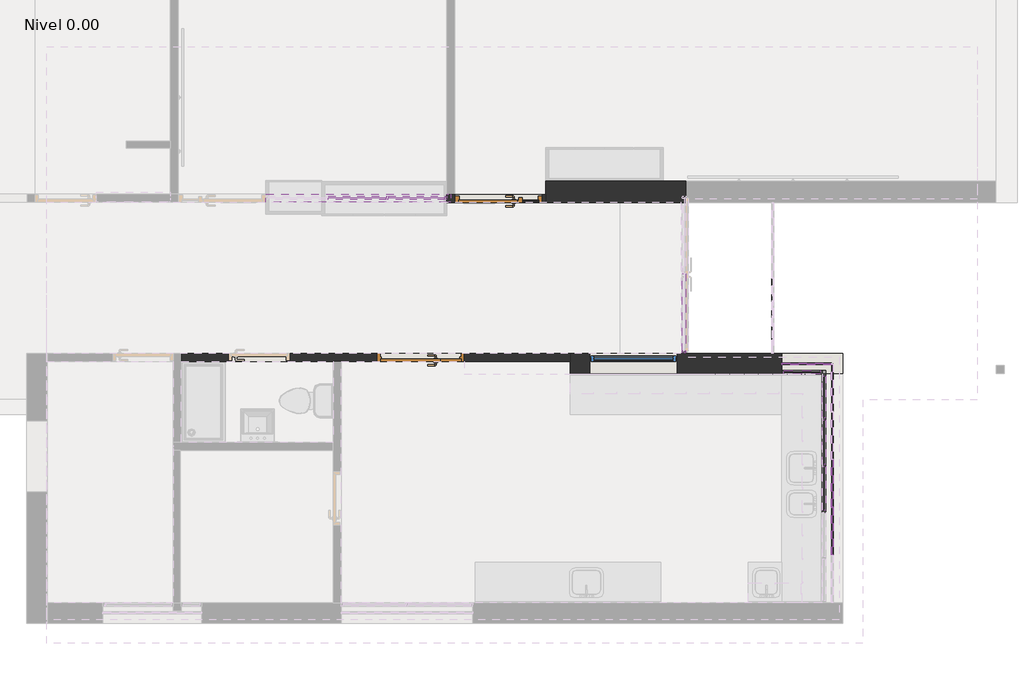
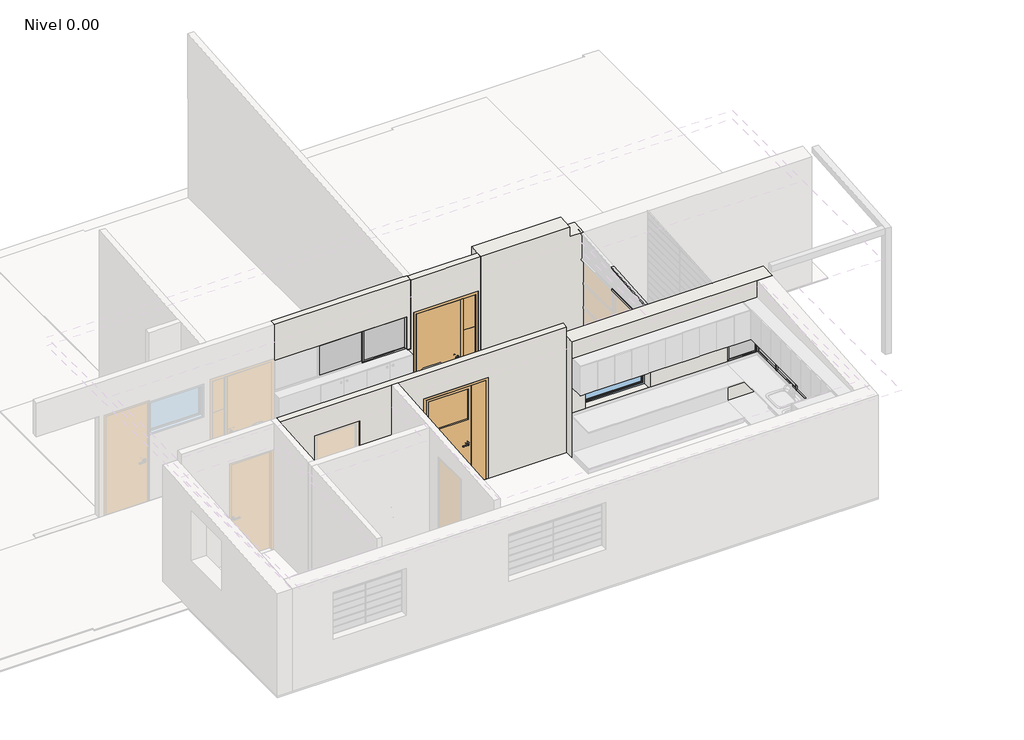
# One storey, part 10 of 27: 79 members, 25 plates, 5 walls, 2 doors, 1 window.
"""IFC4 building model written with IfcOpenShell, lengths in millimetres."""

from ifc_helpers import new_model, si_unit, origin, place, context, project, spatial, faceted_brep, transform, mapped, element, save
from components import puerta_c_03_c03_1300x2100mm_be522cc0, puerta_c_05_c05_1300x2100mm_d7b40a2c, circular_mullion_800c9cf9, circular_mullion_3029fd08, l_corner_mullion_53c66c15, l_corner_mullion_f6289c26, l_corner_mullion_42859779, rectangular_mullion_387845b0, rectangular_mullion_97640366, rectangular_mullion_f4aebcd0, rectangular_mullion_6dd91873, rectangular_mullion_583ac604, rectangular_mullion_a87e72df, rectangular_mullion_5c6d569c, rectangular_mullion_8654e992, rectangular_mullion_e335d830, rectangular_mullion_8bfd3a9c, rectangular_mullion_0e712f1e, rectangular_mullion_3ce97fec, rectangular_mullion_a5abb8e0, rectangular_mullion_823d3a73, rectangular_mullion_2051d734, rectangular_mullion_68d75eab, rectangular_mullion_9108b79a, rectangular_mullion_7a283d79, system_panel_92242c99, system_panel_e062d6e0, system_panel_dc262884, system_panel_3c67efe2, system_panel_glazed_4fc68407, system_panel_glazed_a2efd868, system_panel_glazed_c003b5f8, system_panel_glazed_9cce16fc, system_panel_glazed_a1e22965, vp_1300x600mm_0113bc5a

model = new_model("IFC4")

# Units and contexts
model_context = context("Model", 3, world=origin())
ifc_project = project(units=[si_unit("LENGTHUNIT", "METRE", prefix="MILLI")], contexts=[model_context])

# Site, building, storey
site = spatial("IfcSite", under=ifc_project)
building = spatial("IfcBuilding", under=site)
storey = spatial("IfcBuildingStorey", under=building, Name="Nivel 0.00", Elevation=0.0)

# Doors
placement = place(None, origin())
puerta_c_03_c03_1300x2100mm_shape = puerta_c_03_c03_1300x2100mm_be522cc0(model_context)
element("IfcDoor", 1, ObjectType="PUERTA_C-03 : C03_1300X2100mm", at=placement, inside=storey, context=model_context, shape_type="MappedRepresentation", body=[
    mapped(puerta_c_03_c03_1300x2100mm_shape, transform((10224.7617596, -784.2391831, 0.0), x_axis=(1.0, 0.0, 0.0), y_axis=(0.0, 1.0, 0.0), z_axis=(0.0, 0.0, 1.0))),
])
puerta_c_05_c05_1300x2100mm_shape = puerta_c_05_c05_1300x2100mm_d7b40a2c(model_context)
element("IfcDoor", 2, ObjectType="PUERTA_C-05 : C05_1300X2100mm", at=placement, inside=storey, context=model_context, shape_type="MappedRepresentation", body=[
    mapped(puerta_c_05_c05_1300x2100mm_shape, transform((9067.262327, -3144.2556693, 0.0), x_axis=(1.0, 0.0, 0.0), y_axis=(0.0, 1.0, 0.0), z_axis=(0.0, 0.0, 1.0))),
])

# Members
circular_mullion_shape = circular_mullion_800c9cf9(model_context)
element("IfcMember", 3, ObjectType="Circular Mullion : ARQ_HERR_16mm", at=placement, inside=storey, context=model_context, shape_type="MappedRepresentation", body=[
    mapped(circular_mullion_shape, transform((15175.5015264, -5372.9282707, 1087.5), x_axis=(0.0, 0.0, 1.0), y_axis=(1.0, 0.0, 0.0), z_axis=(0.0, 1.0, 0.0))),
])
element("IfcMember", 4, ObjectType="Circular Mullion : ARQ_HERR_16mm", at=placement, inside=storey, context=model_context, shape_type="MappedRepresentation", body=[
    mapped(circular_mullion_shape, transform((15175.5015264, -4664.1734336, 1087.5), x_axis=(0.0, 0.0, 1.0), y_axis=(1.0, 0.0, 0.0), z_axis=(0.0, 1.0, 0.0))),
])
element("IfcMember", 5, ObjectType="Circular Mullion : ARQ_HERR_16mm", at=placement, inside=storey, context=model_context, shape_type="MappedRepresentation", body=[
    mapped(circular_mullion_shape, transform((15175.5015264, -3955.4185966, 1087.5), x_axis=(0.0, 0.0, 1.0), y_axis=(1.0, 0.0, 0.0), z_axis=(0.0, 1.0, 0.0))),
])
element("IfcMember", 6, ObjectType="Circular Mullion : ARQ_HERR_16mm", at=placement, inside=storey, context=model_context, shape_type="MappedRepresentation", body=[
    mapped(circular_mullion_shape, transform((15175.5015264, -3246.6637592, 1087.5), x_axis=(0.0, 0.0, 1.0), y_axis=(1.0, 0.0, 0.0), z_axis=(0.0, 1.0, 0.0))),
])
element("IfcMember", 7, ObjectType="Circular Mullion : ARQ_HERR_16mm", at=placement, inside=storey, context=model_context, shape_type="MappedRepresentation", body=[
    mapped(circular_mullion_shape, transform((15175.5015264, -5372.9282707, 1225.0), x_axis=(0.0, 0.0, 1.0), y_axis=(1.0, 0.0, 0.0), z_axis=(0.0, 1.0, 0.0))),
])
element("IfcMember", 8, ObjectType="Circular Mullion : ARQ_HERR_16mm", at=placement, inside=storey, context=model_context, shape_type="MappedRepresentation", body=[
    mapped(circular_mullion_shape, transform((15175.5015264, -4664.1734336, 1225.0), x_axis=(0.0, 0.0, 1.0), y_axis=(1.0, 0.0, 0.0), z_axis=(0.0, 1.0, 0.0))),
])
element("IfcMember", 9, ObjectType="Circular Mullion : ARQ_HERR_16mm", at=placement, inside=storey, context=model_context, shape_type="MappedRepresentation", body=[
    mapped(circular_mullion_shape, transform((15175.5015264, -3955.4185966, 1225.0), x_axis=(0.0, 0.0, 1.0), y_axis=(1.0, 0.0, 0.0), z_axis=(0.0, 1.0, 0.0))),
])
element("IfcMember", 10, ObjectType="Circular Mullion : ARQ_HERR_16mm", at=placement, inside=storey, context=model_context, shape_type="MappedRepresentation", body=[
    mapped(circular_mullion_shape, transform((15175.5015264, -3246.6637592, 1225.0), x_axis=(0.0, 0.0, 1.0), y_axis=(1.0, 0.0, 0.0), z_axis=(0.0, 1.0, 0.0))),
])
element("IfcMember", 11, ObjectType="Circular Mullion : ARQ_HERR_16mm", at=placement, inside=storey, context=model_context, shape_type="MappedRepresentation", body=[
    mapped(circular_mullion_shape, transform((15175.5015264, -5372.9282707, 1362.5), x_axis=(0.0, 0.0, 1.0), y_axis=(1.0, 0.0, 0.0), z_axis=(0.0, 1.0, 0.0))),
])
element("IfcMember", 12, ObjectType="Circular Mullion : ARQ_HERR_16mm", at=placement, inside=storey, context=model_context, shape_type="MappedRepresentation", body=[
    mapped(circular_mullion_shape, transform((15175.5015264, -4664.1734336, 1362.5), x_axis=(0.0, 0.0, 1.0), y_axis=(1.0, 0.0, 0.0), z_axis=(0.0, 1.0, 0.0))),
])
circular_mullion_2_shape = circular_mullion_3029fd08(model_context)
element("IfcMember", 13, ObjectType="Circular Mullion : ARQ_HERR_16mm", at=placement, inside=storey, context=model_context, shape_type="MappedRepresentation", body=[
    mapped(circular_mullion_2_shape, transform((14430.4716835, -3239.1638203, 1087.5), x_axis=(0.0, 0.0, 1.0), y_axis=(0.0, 1.0, 0.0), z_axis=(-1.0, 0.0, 0.0))),
])
element("IfcMember", 14, ObjectType="Circular Mullion : ARQ_HERR_16mm", at=placement, inside=storey, context=model_context, shape_type="MappedRepresentation", body=[
    mapped(circular_mullion_2_shape, transform((14430.4716835, -3239.1638203, 1225.0), x_axis=(0.0, 0.0, 1.0), y_axis=(0.0, 1.0, 0.0), z_axis=(-1.0, 0.0, 0.0))),
])
element("IfcMember", 15, ObjectType="Circular Mullion : ARQ_HERR_16mm", at=placement, inside=storey, context=model_context, shape_type="MappedRepresentation", body=[
    mapped(circular_mullion_2_shape, transform((14430.4716835, -3239.1638203, 1362.5), x_axis=(0.0, 0.0, 1.0), y_axis=(0.0, 1.0, 0.0), z_axis=(-1.0, 0.0, 0.0))),
])
l_corner_mullion_shape = l_corner_mullion_53c66c15(model_context)
element("IfcMember", 16, ObjectType="L Corner Mullion : ARQ_HERR_15X6mm", at=placement, inside=storey, context=model_context, shape_type="MappedRepresentation", body=[
    mapped(l_corner_mullion_shape, transform((15175.5015264, -3246.6637592, 1500.0), x_axis=(0.0, 0.0, 1.0), y_axis=(1.0, 0.0, 0.0), z_axis=(0.0, 1.0, 0.0))),
])
element("IfcMember", 17, ObjectType="L Corner Mullion : ARQ_HERR_15X6mm", at=placement, inside=storey, context=model_context, shape_type="MappedRepresentation", body=[
    mapped(l_corner_mullion_shape, transform((15175.5015264, -5372.9282707, 1500.0), x_axis=(0.0, 0.0, 1.0), y_axis=(1.0, 0.0, 0.0), z_axis=(0.0, 1.0, 0.0))),
])
element("IfcMember", 18, ObjectType="L Corner Mullion : ARQ_HERR_15X6mm", at=placement, inside=storey, context=model_context, shape_type="MappedRepresentation", body=[
    mapped(l_corner_mullion_shape, transform((15175.5015264, -4664.1734336, 1500.0), x_axis=(0.0, 0.0, 1.0), y_axis=(1.0, 0.0, 0.0), z_axis=(0.0, 1.0, 0.0))),
])
element("IfcMember", 19, ObjectType="L Corner Mullion : ARQ_HERR_15X6mm", at=placement, inside=storey, context=model_context, shape_type="MappedRepresentation", body=[
    mapped(l_corner_mullion_shape, transform((15175.5015264, -3955.4185966, 1500.0), x_axis=(0.0, 0.0, 1.0), y_axis=(1.0, 0.0, 0.0), z_axis=(0.0, 1.0, 0.0))),
])
element("IfcMember", 20, ObjectType="L Corner Mullion : ARQ_HERR_15X6mm", at=placement, inside=storey, context=model_context, shape_type="MappedRepresentation", body=[
    mapped(l_corner_mullion_shape, transform((15175.5015264, -5366.9282707, 950.0), x_axis=(0.0, 0.0, -1.0), y_axis=(1.0, 0.0, 0.0), z_axis=(0.0, -1.0, 0.0))),
])
element("IfcMember", 21, ObjectType="L Corner Mullion : ARQ_HERR_15X6mm", at=placement, inside=storey, context=model_context, shape_type="MappedRepresentation", body=[
    mapped(l_corner_mullion_shape, transform((15175.5015264, -4658.1734336, 950.0), x_axis=(0.0, 0.0, -1.0), y_axis=(1.0, 0.0, 0.0), z_axis=(0.0, -1.0, 0.0))),
])
element("IfcMember", 22, ObjectType="L Corner Mullion : ARQ_HERR_15X6mm", at=placement, inside=storey, context=model_context, shape_type="MappedRepresentation", body=[
    mapped(l_corner_mullion_shape, transform((15175.5015264, -3949.4185966, 950.0), x_axis=(0.0, 0.0, -1.0), y_axis=(1.0, 0.0, 0.0), z_axis=(0.0, -1.0, 0.0))),
])
l_corner_mullion_2_shape = l_corner_mullion_f6289c26(model_context)
element("IfcMember", 23, ObjectType="L Corner Mullion : ARQ_HERR_15X6mm", at=placement, inside=storey, context=model_context, shape_type="MappedRepresentation", body=[
    mapped(l_corner_mullion_2_shape, transform((14430.4716835, -3239.1638203, 1500.0), x_axis=(0.0, 0.0, 1.0), y_axis=(0.0, 1.0, 0.0), z_axis=(-1.0, 0.0, 0.0))),
])
l_corner_mullion_3_shape = l_corner_mullion_42859779(model_context)
element("IfcMember", 24, ObjectType="L Corner Mullion : ARQ_HERR_15X6mm", at=placement, inside=storey, context=model_context, shape_type="MappedRepresentation", body=[
    mapped(l_corner_mullion_3_shape, transform((14293.3180123, -3084.6637592, 0.0), x_axis=(0.0, 0.0, -1.0), y_axis=(1.0, 0.0, 0.0), z_axis=(0.0, -1.0, 0.0))),
])
rectangular_mullion_shape = rectangular_mullion_387845b0(model_context)
element("IfcMember", 25, ObjectType="Rectangular Mullion : ARQ_TV_MULL_50x30mm", at=placement, inside=storey, context=model_context, shape_type="MappedRepresentation", body=[
    mapped(rectangular_mullion_shape, transform((14995.5015264, -3365.6637592, 1500.0), x_axis=(0.0, 0.0, 1.0), y_axis=(0.0, -1.0, 0.0), z_axis=(1.0, 0.0, 0.0))),
])
element("IfcMember", 26, ObjectType="Rectangular Mullion : ARQ_TV_MULL_50x30mm", at=placement, inside=storey, context=model_context, shape_type="MappedRepresentation", body=[
    mapped(rectangular_mullion_shape, transform((14454.4716835, -3365.6637592, 950.0), x_axis=(0.0, 0.0, -1.0), y_axis=(0.0, -1.0, 0.0), z_axis=(-1.0, 0.0, 0.0))),
])
rectangular_mullion_2_shape = rectangular_mullion_97640366(model_context)
element("IfcMember", 27, ObjectType="Rectangular Mullion : ARQ_TV_MULL_50x30mm", at=placement, inside=storey, context=model_context, shape_type="MappedRepresentation", body=[
    mapped(rectangular_mullion_2_shape, transform((15050.5015264, -3420.6637592, 1500.0), x_axis=(0.0, 0.0, 1.0), y_axis=(1.0, 0.0, 0.0), z_axis=(0.0, 1.0, 0.0))),
])
rectangular_mullion_3_shape = rectangular_mullion_f4aebcd0(model_context)
element("IfcMember", 28, ObjectType="Rectangular Mullion : ARQ_TV_MULL_50x30mm", at=placement, inside=storey, context=model_context, shape_type="MappedRepresentation", body=[
    mapped(rectangular_mullion_3_shape, transform((15050.5015264, -4762.6404848, 1500.0), x_axis=(0.0, 0.0, 1.0), y_axis=(1.0, 0.0, 0.0), z_axis=(0.0, 1.0, 0.0))),
])
element("IfcMember", 29, ObjectType="Rectangular Mullion : ARQ_TV_MULL_50x30mm", at=placement, inside=storey, context=model_context, shape_type="MappedRepresentation", body=[
    mapped(rectangular_mullion_3_shape, transform((15050.5015264, -4076.6521221, 1500.0), x_axis=(0.0, 0.0, 1.0), y_axis=(1.0, 0.0, 0.0), z_axis=(0.0, 1.0, 0.0))),
])
element("IfcMember", 30, ObjectType="Rectangular Mullion : ARQ_TV_MULL_50x30mm", at=placement, inside=storey, context=model_context, shape_type="MappedRepresentation", body=[
    mapped(rectangular_mullion_2_shape, transform((15050.5015264, -4046.6521221, 950.0), x_axis=(0.0, 0.0, -1.0), y_axis=(1.0, 0.0, 0.0), z_axis=(0.0, -1.0, 0.0))),
])
element("IfcMember", 31, ObjectType="Rectangular Mullion : ARQ_TV_MULL_50x30mm", at=placement, inside=storey, context=model_context, shape_type="MappedRepresentation", body=[
    mapped(rectangular_mullion_3_shape, transform((15050.5015264, -5418.6288474, 950.0), x_axis=(0.0, 0.0, -1.0), y_axis=(1.0, 0.0, 0.0), z_axis=(0.0, -1.0, 0.0))),
])
element("IfcMember", 32, ObjectType="Rectangular Mullion : ARQ_TV_MULL_50x30mm", at=placement, inside=storey, context=model_context, shape_type="MappedRepresentation", body=[
    mapped(rectangular_mullion_3_shape, transform((15050.5015264, -4732.6404848, 950.0), x_axis=(0.0, 0.0, -1.0), y_axis=(1.0, 0.0, 0.0), z_axis=(0.0, -1.0, 0.0))),
])
rectangular_mullion_4_shape = rectangular_mullion_6dd91873(model_context)
element("IfcMember", 33, ObjectType="Rectangular Mullion : ARQ_TV_MULL_50x30mm", at=placement, inside=storey, context=model_context, shape_type="MappedRepresentation", body=[
    mapped(rectangular_mullion_4_shape, transform((15050.5015264, -3390.6637592, 950.0), x_axis=(0.0, 1.0, 0.0), y_axis=(1.0, 0.0, 0.0), z_axis=(0.0, 0.0, -1.0))),
])
element("IfcMember", 34, ObjectType="Rectangular Mullion : ARQ_TV_MULL_50x30mm", at=placement, inside=storey, context=model_context, shape_type="MappedRepresentation", body=[
    mapped(rectangular_mullion_4_shape, transform((15025.5015264, -3365.6637592, 950.0), x_axis=(1.0, 0.0, 0.0), y_axis=(0.0, -1.0, 0.0), z_axis=(0.0, 0.0, -1.0))),
])
element("IfcMember", 35, ObjectType="Rectangular Mullion : ARQ_TV_MULL_50x30mm", at=placement, inside=storey, context=model_context, shape_type="MappedRepresentation", body=[
    mapped(rectangular_mullion_4_shape, transform((14424.4716835, -3365.6637592, 1500.0), x_axis=(-1.0, 0.0, 0.0), y_axis=(0.0, -1.0, 0.0), z_axis=(0.0, 0.0, 1.0))),
])
rectangular_mullion_5_shape = rectangular_mullion_583ac604(model_context)
element("IfcMember", 36, ObjectType="Rectangular Mullion : ARQ_TV_MULL_50x30mm", at=placement, inside=storey, context=model_context, shape_type="MappedRepresentation", body=[
    mapped(rectangular_mullion_5_shape, transform((15050.5015264, -5433.6288474, 950.0), x_axis=(0.0, 1.0, 0.0), y_axis=(1.0, 0.0, 0.0), z_axis=(0.0, 0.0, -1.0))),
])
element("IfcMember", 37, ObjectType="Rectangular Mullion : ARQ_TV_MULL_50x30mm", at=placement, inside=storey, context=model_context, shape_type="MappedRepresentation", body=[
    mapped(rectangular_mullion_5_shape, transform((15050.5015264, -4747.6404848, 950.0), x_axis=(0.0, 1.0, 0.0), y_axis=(1.0, 0.0, 0.0), z_axis=(0.0, 0.0, -1.0))),
])
element("IfcMember", 38, ObjectType="Rectangular Mullion : ARQ_TV_MULL_50x30mm", at=placement, inside=storey, context=model_context, shape_type="MappedRepresentation", body=[
    mapped(rectangular_mullion_5_shape, transform((15050.5015264, -4061.6521221, 950.0), x_axis=(0.0, 1.0, 0.0), y_axis=(1.0, 0.0, 0.0), z_axis=(0.0, 0.0, -1.0))),
])
rectangular_mullion_6_shape = rectangular_mullion_a87e72df(model_context)
element("IfcMember", 39, ObjectType="Rectangular Mullion : ARQ_TV_MULL_50x30mm", at=placement, inside=storey, context=model_context, shape_type="MappedRepresentation", body=[
    mapped(rectangular_mullion_6_shape, transform((8576.023445, -780.6047653, 1400.0), x_axis=(1.0, 0.0, 0.0), y_axis=(0.0, -1.0, 0.0), z_axis=(0.0, 0.0, -1.0))),
])
rectangular_mullion_7_shape = rectangular_mullion_5c6d569c(model_context)
element("IfcMember", 40, ObjectType="Rectangular Mullion : ARQ_TV_MULL_50x30mm", at=placement, inside=storey, context=model_context, shape_type="MappedRepresentation", body=[
    mapped(rectangular_mullion_7_shape, transform((9454.3567784, -780.6047653, 1400.0), x_axis=(1.0, 0.0, 0.0), y_axis=(0.0, -1.0, 0.0), z_axis=(0.0, 0.0, -1.0))),
])
rectangular_mullion_8_shape = rectangular_mullion_8654e992(model_context)
element("IfcMember", 41, ObjectType="Rectangular Mullion : ARQ_TV_MULL_50x30mm", at=placement, inside=storey, context=model_context, shape_type="MappedRepresentation", body=[
    mapped(rectangular_mullion_8_shape, transform((9424.3567784, -780.6047653, 2100.0), x_axis=(0.0, 0.0, 1.0), y_axis=(0.0, -1.0, 0.0), z_axis=(1.0, 0.0, 0.0))),
])
rectangular_mullion_9_shape = rectangular_mullion_e335d830(model_context)
element("IfcMember", 42, ObjectType="Rectangular Mullion : ARQ_TV_MULL_50x30mm", at=placement, inside=storey, context=model_context, shape_type="MappedRepresentation", body=[
    mapped(rectangular_mullion_9_shape, transform((8561.023445, -780.6047653, 2100.0), x_axis=(0.0, 0.0, 1.0), y_axis=(0.0, -1.0, 0.0), z_axis=(1.0, 0.0, 0.0))),
])
element("IfcMember", 43, ObjectType="Rectangular Mullion : ARQ_TV_MULL_50x30mm", at=placement, inside=storey, context=model_context, shape_type="MappedRepresentation", body=[
    mapped(rectangular_mullion_8_shape, transform((8591.023445, -780.6047653, 1400.0), x_axis=(0.0, 0.0, -1.0), y_axis=(0.0, -1.0, 0.0), z_axis=(-1.0, 0.0, 0.0))),
])
rectangular_mullion_10_shape = rectangular_mullion_8bfd3a9c(model_context)
element("IfcMember", 44, ObjectType="Rectangular Mullion : ARQ_TV_MULL_50x30mm", at=placement, inside=storey, context=model_context, shape_type="MappedRepresentation", body=[
    mapped(rectangular_mullion_10_shape, transform((12973.3180123, -3053.1047653, 2100.0), x_axis=(0.0, 0.0, 1.0), y_axis=(-1.0, 0.0, 0.0), z_axis=(0.0, -1.0, 0.0))),
])
rectangular_mullion_11_shape = rectangular_mullion_0e712f1e(model_context)
element("IfcMember", 45, ObjectType="Rectangular Mullion : ARQ_HERR_15X6mm", at=placement, inside=storey, context=model_context, shape_type="MappedRepresentation", body=[
    mapped(rectangular_mullion_11_shape, transform((15175.5015264, -5369.9282707, 950.0), x_axis=(0.0, 1.0, 0.0), y_axis=(1.0, 0.0, 0.0), z_axis=(0.0, 0.0, -1.0))),
])
element("IfcMember", 46, ObjectType="Rectangular Mullion : ARQ_HERR_15X6mm", at=placement, inside=storey, context=model_context, shape_type="MappedRepresentation", body=[
    mapped(rectangular_mullion_11_shape, transform((15175.5015264, -4661.1734336, 950.0), x_axis=(0.0, 1.0, 0.0), y_axis=(1.0, 0.0, 0.0), z_axis=(0.0, 0.0, -1.0))),
])
element("IfcMember", 47, ObjectType="Rectangular Mullion : ARQ_HERR_15X6mm", at=placement, inside=storey, context=model_context, shape_type="MappedRepresentation", body=[
    mapped(rectangular_mullion_11_shape, transform((15175.5015264, -5369.9282707, 1087.5), x_axis=(0.0, 1.0, 0.0), y_axis=(1.0, 0.0, 0.0), z_axis=(0.0, 0.0, -1.0))),
])
element("IfcMember", 48, ObjectType="Rectangular Mullion : ARQ_HERR_15X6mm", at=placement, inside=storey, context=model_context, shape_type="MappedRepresentation", body=[
    mapped(rectangular_mullion_11_shape, transform((15175.5015264, -4661.1734336, 1087.5), x_axis=(0.0, 1.0, 0.0), y_axis=(1.0, 0.0, 0.0), z_axis=(0.0, 0.0, -1.0))),
])
element("IfcMember", 49, ObjectType="Rectangular Mullion : ARQ_HERR_15X6mm", at=placement, inside=storey, context=model_context, shape_type="MappedRepresentation", body=[
    mapped(rectangular_mullion_11_shape, transform((15175.5015264, -5369.9282707, 1225.0), x_axis=(0.0, 1.0, 0.0), y_axis=(1.0, 0.0, 0.0), z_axis=(0.0, 0.0, -1.0))),
])
element("IfcMember", 50, ObjectType="Rectangular Mullion : ARQ_HERR_15X6mm", at=placement, inside=storey, context=model_context, shape_type="MappedRepresentation", body=[
    mapped(rectangular_mullion_11_shape, transform((15175.5015264, -4661.1734336, 1225.0), x_axis=(0.0, 1.0, 0.0), y_axis=(1.0, 0.0, 0.0), z_axis=(0.0, 0.0, -1.0))),
])
element("IfcMember", 51, ObjectType="Rectangular Mullion : ARQ_HERR_15X6mm", at=placement, inside=storey, context=model_context, shape_type="MappedRepresentation", body=[
    mapped(rectangular_mullion_11_shape, transform((15175.5015264, -5369.9282707, 1362.5), x_axis=(0.0, 1.0, 0.0), y_axis=(1.0, 0.0, 0.0), z_axis=(0.0, 0.0, -1.0))),
])
element("IfcMember", 52, ObjectType="Rectangular Mullion : ARQ_HERR_15X6mm", at=placement, inside=storey, context=model_context, shape_type="MappedRepresentation", body=[
    mapped(rectangular_mullion_11_shape, transform((15175.5015264, -4661.1734336, 1362.5), x_axis=(0.0, 1.0, 0.0), y_axis=(1.0, 0.0, 0.0), z_axis=(0.0, 0.0, -1.0))),
])
rectangular_mullion_12_shape = rectangular_mullion_3ce97fec(model_context)
element("IfcMember", 53, ObjectType="Rectangular Mullion : ARQ_HERR_15X6mm", at=placement, inside=storey, context=model_context, shape_type="MappedRepresentation", body=[
    mapped(rectangular_mullion_12_shape, transform((15175.5015264, -3240.6637592, 950.0), x_axis=(0.0, 1.0, 0.0), y_axis=(1.0, 0.0, 0.0), z_axis=(0.0, 0.0, -1.0))),
])
element("IfcMember", 54, ObjectType="Rectangular Mullion : ARQ_HERR_15X6mm", at=placement, inside=storey, context=model_context, shape_type="MappedRepresentation", body=[
    mapped(rectangular_mullion_12_shape, transform((14424.4716835, -3239.1638203, 950.0), x_axis=(-1.0, 0.0, 0.0), y_axis=(0.0, 1.0, 0.0), z_axis=(0.0, 0.0, -1.0))),
])
element("IfcMember", 55, ObjectType="Rectangular Mullion : ARQ_HERR_15X6mm", at=placement, inside=storey, context=model_context, shape_type="MappedRepresentation", body=[
    mapped(rectangular_mullion_12_shape, transform((15175.5015264, -3240.6637592, 1087.5), x_axis=(0.0, 1.0, 0.0), y_axis=(1.0, 0.0, 0.0), z_axis=(0.0, 0.0, -1.0))),
])
element("IfcMember", 56, ObjectType="Rectangular Mullion : ARQ_HERR_15X6mm", at=placement, inside=storey, context=model_context, shape_type="MappedRepresentation", body=[
    mapped(rectangular_mullion_12_shape, transform((15175.5015264, -3240.6637592, 1225.0), x_axis=(0.0, 1.0, 0.0), y_axis=(1.0, 0.0, 0.0), z_axis=(0.0, 0.0, -1.0))),
])
element("IfcMember", 57, ObjectType="Rectangular Mullion : ARQ_HERR_15X6mm", at=placement, inside=storey, context=model_context, shape_type="MappedRepresentation", body=[
    mapped(rectangular_mullion_12_shape, transform((14424.4716835, -3239.1638203, 1087.5), x_axis=(-1.0, 0.0, 0.0), y_axis=(0.0, 1.0, 0.0), z_axis=(0.0, 0.0, -1.0))),
])
element("IfcMember", 58, ObjectType="Rectangular Mullion : ARQ_HERR_15X6mm", at=placement, inside=storey, context=model_context, shape_type="MappedRepresentation", body=[
    mapped(rectangular_mullion_12_shape, transform((14424.4716835, -3239.1638203, 1225.0), x_axis=(-1.0, 0.0, 0.0), y_axis=(0.0, 1.0, 0.0), z_axis=(0.0, 0.0, -1.0))),
])
element("IfcMember", 59, ObjectType="Rectangular Mullion : ARQ_HERR_15X6mm", at=placement, inside=storey, context=model_context, shape_type="MappedRepresentation", body=[
    mapped(rectangular_mullion_12_shape, transform((15175.5015264, -3240.6637592, 1362.5), x_axis=(0.0, 1.0, 0.0), y_axis=(1.0, 0.0, 0.0), z_axis=(0.0, 0.0, -1.0))),
])
element("IfcMember", 60, ObjectType="Rectangular Mullion : ARQ_HERR_15X6mm", at=placement, inside=storey, context=model_context, shape_type="MappedRepresentation", body=[
    mapped(rectangular_mullion_12_shape, transform((14424.4716835, -3239.1638203, 1362.5), x_axis=(-1.0, 0.0, 0.0), y_axis=(0.0, 1.0, 0.0), z_axis=(0.0, 0.0, -1.0))),
])
rectangular_mullion_13_shape = rectangular_mullion_a5abb8e0(model_context)
element("IfcMember", 61, ObjectType="Rectangular Mullion : ARQ_HERR_15X6mm", at=placement, inside=storey, context=model_context, shape_type="MappedRepresentation", body=[
    mapped(rectangular_mullion_13_shape, transform((14293.3180123, -3090.6637592, 148.033564), x_axis=(0.0, -1.0, 0.0), y_axis=(1.0, 0.0, 0.0), z_axis=(0.0, 0.0, 1.0))),
])
element("IfcMember", 62, ObjectType="Rectangular Mullion : ARQ_HERR_15X6mm", at=placement, inside=storey, context=model_context, shape_type="MappedRepresentation", body=[
    mapped(rectangular_mullion_13_shape, transform((14293.3180123, -3090.6637592, 296.0671279), x_axis=(0.0, -1.0, 0.0), y_axis=(1.0, 0.0, 0.0), z_axis=(0.0, 0.0, 1.0))),
])
element("IfcMember", 63, ObjectType="Rectangular Mullion : ARQ_HERR_15X6mm", at=placement, inside=storey, context=model_context, shape_type="MappedRepresentation", body=[
    mapped(rectangular_mullion_13_shape, transform((14293.3180123, -3090.6637592, 444.1006919), x_axis=(0.0, -1.0, 0.0), y_axis=(1.0, 0.0, 0.0), z_axis=(0.0, 0.0, 1.0))),
])
element("IfcMember", 64, ObjectType="Rectangular Mullion : ARQ_HERR_15X6mm", at=placement, inside=storey, context=model_context, shape_type="MappedRepresentation", body=[
    mapped(rectangular_mullion_13_shape, transform((14293.3180123, -3090.6637592, 592.1342559), x_axis=(0.0, -1.0, 0.0), y_axis=(1.0, 0.0, 0.0), z_axis=(0.0, 0.0, 1.0))),
])
element("IfcMember", 65, ObjectType="Rectangular Mullion : ARQ_HERR_15X6mm", at=placement, inside=storey, context=model_context, shape_type="MappedRepresentation", body=[
    mapped(rectangular_mullion_13_shape, transform((14293.3180123, -3090.6637592, 740.1678198), x_axis=(0.0, -1.0, 0.0), y_axis=(1.0, 0.0, 0.0), z_axis=(0.0, 0.0, 1.0))),
])
element("IfcMember", 66, ObjectType="Rectangular Mullion : ARQ_HERR_15X6mm", at=placement, inside=storey, context=model_context, shape_type="MappedRepresentation", body=[
    mapped(rectangular_mullion_13_shape, transform((14293.3180123, -3090.6637592, 888.2013838), x_axis=(0.0, -1.0, 0.0), y_axis=(1.0, 0.0, 0.0), z_axis=(0.0, 0.0, 1.0))),
])
element("IfcMember", 67, ObjectType="Rectangular Mullion : ARQ_HERR_15X6mm", at=placement, inside=storey, context=model_context, shape_type="MappedRepresentation", body=[
    mapped(rectangular_mullion_13_shape, transform((14293.3180123, -3090.6637592, 1036.2349478), x_axis=(0.0, -1.0, 0.0), y_axis=(1.0, 0.0, 0.0), z_axis=(0.0, 0.0, 1.0))),
])
element("IfcMember", 68, ObjectType="Rectangular Mullion : ARQ_HERR_15X6mm", at=placement, inside=storey, context=model_context, shape_type="MappedRepresentation", body=[
    mapped(rectangular_mullion_13_shape, transform((14293.3180123, -3090.6637592, 1184.2685118), x_axis=(0.0, -1.0, 0.0), y_axis=(1.0, 0.0, 0.0), z_axis=(0.0, 0.0, 1.0))),
])
element("IfcMember", 69, ObjectType="Rectangular Mullion : ARQ_HERR_15X6mm", at=placement, inside=storey, context=model_context, shape_type="MappedRepresentation", body=[
    mapped(rectangular_mullion_13_shape, transform((14293.3180123, -3090.6637592, 1332.3020757), x_axis=(0.0, -1.0, 0.0), y_axis=(1.0, 0.0, 0.0), z_axis=(0.0, 0.0, 1.0))),
])
element("IfcMember", 70, ObjectType="Rectangular Mullion : ARQ_HERR_15X6mm", at=placement, inside=storey, context=model_context, shape_type="MappedRepresentation", body=[
    mapped(rectangular_mullion_13_shape, transform((14293.3180123, -3090.6637592, 1480.3356397), x_axis=(0.0, -1.0, 0.0), y_axis=(1.0, 0.0, 0.0), z_axis=(0.0, 0.0, 1.0))),
])
element("IfcMember", 71, ObjectType="Rectangular Mullion : ARQ_HERR_15X6mm", at=placement, inside=storey, context=model_context, shape_type="MappedRepresentation", body=[
    mapped(rectangular_mullion_13_shape, transform((14293.3180123, -3090.6637592, 1628.3692037), x_axis=(0.0, -1.0, 0.0), y_axis=(1.0, 0.0, 0.0), z_axis=(0.0, 0.0, 1.0))),
])
element("IfcMember", 72, ObjectType="Rectangular Mullion : ARQ_HERR_15X6mm", at=placement, inside=storey, context=model_context, shape_type="MappedRepresentation", body=[
    mapped(rectangular_mullion_13_shape, transform((14293.3180123, -3090.6637592, 1776.4027676), x_axis=(0.0, -1.0, 0.0), y_axis=(1.0, 0.0, 0.0), z_axis=(0.0, 0.0, 1.0))),
])
element("IfcMember", 73, ObjectType="Rectangular Mullion : ARQ_HERR_15X6mm", at=placement, inside=storey, context=model_context, shape_type="MappedRepresentation", body=[
    mapped(rectangular_mullion_13_shape, transform((14293.3180123, -3090.6637592, 1924.4363316), x_axis=(0.0, -1.0, 0.0), y_axis=(1.0, 0.0, 0.0), z_axis=(0.0, 0.0, 1.0))),
])
element("IfcMember", 74, ObjectType="Rectangular Mullion : ARQ_HERR_15X6mm", at=placement, inside=storey, context=model_context, shape_type="MappedRepresentation", body=[
    mapped(rectangular_mullion_13_shape, transform((14293.3180123, -3090.6637592, 2072.4698956), x_axis=(0.0, -1.0, 0.0), y_axis=(1.0, 0.0, 0.0), z_axis=(0.0, 0.0, 1.0))),
])
element("IfcMember", 75, ObjectType="Rectangular Mullion : ARQ_HERR_15X6mm", at=placement, inside=storey, context=model_context, shape_type="MappedRepresentation", body=[
    mapped(rectangular_mullion_13_shape, transform((14293.3180123, -3090.6637592, 2220.5034595), x_axis=(0.0, -1.0, 0.0), y_axis=(1.0, 0.0, 0.0), z_axis=(0.0, 0.0, 1.0))),
])
element("IfcMember", 76, ObjectType="Rectangular Mullion : ARQ_HERR_15X6mm", at=placement, inside=storey, context=model_context, shape_type="MappedRepresentation", body=[
    mapped(rectangular_mullion_13_shape, transform((14293.3180123, -3090.6637592, 2368.5370235), x_axis=(0.0, -1.0, 0.0), y_axis=(1.0, 0.0, 0.0), z_axis=(0.0, 0.0, 1.0))),
])
rectangular_mullion_14_shape = rectangular_mullion_823d3a73(model_context)
element("IfcMember", 77, ObjectType="Rectangular Mullion : ARQ_TV_MULL_50x30mm", at=placement, inside=storey, context=model_context, shape_type="MappedRepresentation", body=[
    mapped(rectangular_mullion_14_shape, transform((12973.3180123, -3083.1047653, 0.0), x_axis=(0.0, -1.0, 0.0), y_axis=(-1.0, 0.0, 0.0), z_axis=(0.0, 0.0, -1.0))),
])
rectangular_mullion_15_shape = rectangular_mullion_2051d734(model_context)
element("IfcMember", 78, ObjectType="Rectangular Mullion : ARQ_TV_MULL_50x30mm", at=placement, inside=storey, context=model_context, shape_type="MappedRepresentation", body=[
    mapped(rectangular_mullion_15_shape, transform((12973.3180123, -3083.1047653, 1336.2351845), x_axis=(0.0, -1.0, 0.0), y_axis=(-1.0, 0.0, 0.0), z_axis=(0.0, 0.0, -1.0))),
])
rectangular_mullion_16_shape = rectangular_mullion_68d75eab(model_context)
element("IfcMember", 79, ObjectType="Rectangular Mullion : ARQ_TV_MULL_50x30mm", at=placement, inside=storey, context=model_context, shape_type="MappedRepresentation", body=[
    mapped(rectangular_mullion_16_shape, transform((12973.3180123, -3083.1047653, 2484.2877575), x_axis=(0.0, -0.08041785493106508, 0.9967612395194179), y_axis=(-1.0, 0.0, 0.0), z_axis=(0.0, -0.9967612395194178, -0.08041785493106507))),
])
rectangular_mullion_17_shape = rectangular_mullion_9108b79a(model_context)
element("IfcMember", 80, ObjectType="Rectangular Mullion : ARQ_TV_MULL_50x30mm", at=placement, inside=storey, context=model_context, shape_type="MappedRepresentation", body=[
    mapped(rectangular_mullion_17_shape, transform((12973.3180123, -3083.1047653, 2100.0), x_axis=(0.0, -1.0, 0.0), y_axis=(-1.0, 0.0, 0.0), z_axis=(0.0, 0.0, -1.0))),
])
rectangular_mullion_18_shape = rectangular_mullion_7a283d79(model_context)
element("IfcMember", 81, ObjectType="Rectangular Mullion : ARQ_HERR_15X6mm", at=placement, inside=storey, context=model_context, shape_type="MappedRepresentation", body=[
    mapped(rectangular_mullion_18_shape, transform((14293.3180123, -3090.6637592, 2483.6779042), x_axis=(0.0, -1.0, 0.0), y_axis=(1.0, 0.0, 0.0), z_axis=(0.0, 0.0, 1.0))),
])

# Plates
system_panel_shape = system_panel_92242c99(model_context)
element("IfcPlate", 82, ObjectType="System Panel : VACÍO", at=placement, inside=storey, context=model_context, shape_type="MappedRepresentation", body=[
    mapped(system_panel_shape, transform((15175.5015264, -5724.3056892, 956.0), x_axis=(0.0, 1.0, 0.0), y_axis=(-1.0, 0.0, 0.0), z_axis=(0.0, 0.0, 1.0))),
])
element("IfcPlate", 83, ObjectType="System Panel : VACÍO", at=placement, inside=storey, context=model_context, shape_type="MappedRepresentation", body=[
    mapped(system_panel_shape, transform((15175.5015264, -5015.5508522, 956.0), x_axis=(0.0, 1.0, 0.0), y_axis=(-1.0, 0.0, 0.0), z_axis=(0.0, 0.0, 1.0))),
])
element("IfcPlate", 84, ObjectType="System Panel : VACÍO", at=placement, inside=storey, context=model_context, shape_type="MappedRepresentation", body=[
    mapped(system_panel_shape, transform((15175.5015264, -4306.7960151, 956.0), x_axis=(0.0, 1.0, 0.0), y_axis=(-1.0, 0.0, 0.0), z_axis=(0.0, 0.0, 1.0))),
])
element("IfcPlate", 85, ObjectType="System Panel : VACÍO", at=placement, inside=storey, context=model_context, shape_type="MappedRepresentation", body=[
    mapped(system_panel_shape, transform((15175.5015264, -3598.0411779, 956.0), x_axis=(0.0, 1.0, 0.0), y_axis=(-1.0, 0.0, 0.0), z_axis=(0.0, 0.0, 1.0))),
])
element("IfcPlate", 86, ObjectType="System Panel : VACÍO", at=placement, inside=storey, context=model_context, shape_type="MappedRepresentation", body=[
    mapped(system_panel_shape, transform((15175.5015264, -5724.3056892, 1370.5), x_axis=(0.0, 1.0, 0.0), y_axis=(-1.0, 0.0, 0.0), z_axis=(0.0, 0.0, 1.0))),
])
element("IfcPlate", 87, ObjectType="System Panel : VACÍO", at=placement, inside=storey, context=model_context, shape_type="MappedRepresentation", body=[
    mapped(system_panel_shape, transform((15175.5015264, -5015.5508522, 1370.5), x_axis=(0.0, 1.0, 0.0), y_axis=(-1.0, 0.0, 0.0), z_axis=(0.0, 0.0, 1.0))),
])
element("IfcPlate", 88, ObjectType="System Panel : VACÍO", at=placement, inside=storey, context=model_context, shape_type="MappedRepresentation", body=[
    mapped(system_panel_shape, transform((15175.5015264, -4306.7960151, 1370.5), x_axis=(0.0, 1.0, 0.0), y_axis=(-1.0, 0.0, 0.0), z_axis=(0.0, 0.0, 1.0))),
])
element("IfcPlate", 89, ObjectType="System Panel : VACÍO", at=placement, inside=storey, context=model_context, shape_type="MappedRepresentation", body=[
    mapped(system_panel_shape, transform((15175.5015264, -3598.0411779, 1370.5), x_axis=(0.0, 1.0, 0.0), y_axis=(-1.0, 0.0, 0.0), z_axis=(0.0, 0.0, 1.0))),
])
system_panel_2_shape = system_panel_e062d6e0(model_context)
element("IfcPlate", 90, ObjectType="System Panel : VACÍO", at=placement, inside=storey, context=model_context, shape_type="MappedRepresentation", body=[
    mapped(system_panel_2_shape, transform((15175.5015264, -5724.3056892, 1095.5), x_axis=(0.0, 1.0, 0.0), y_axis=(-1.0, 0.0, 0.0), z_axis=(0.0, 0.0, 1.0))),
])
element("IfcPlate", 91, ObjectType="System Panel : VACÍO", at=placement, inside=storey, context=model_context, shape_type="MappedRepresentation", body=[
    mapped(system_panel_2_shape, transform((15175.5015264, -5015.5508522, 1095.5), x_axis=(0.0, 1.0, 0.0), y_axis=(-1.0, 0.0, 0.0), z_axis=(0.0, 0.0, 1.0))),
])
element("IfcPlate", 92, ObjectType="System Panel : VACÍO", at=placement, inside=storey, context=model_context, shape_type="MappedRepresentation", body=[
    mapped(system_panel_2_shape, transform((15175.5015264, -4306.7960151, 1095.5), x_axis=(0.0, 1.0, 0.0), y_axis=(-1.0, 0.0, 0.0), z_axis=(0.0, 0.0, 1.0))),
])
element("IfcPlate", 93, ObjectType="System Panel : VACÍO", at=placement, inside=storey, context=model_context, shape_type="MappedRepresentation", body=[
    mapped(system_panel_2_shape, transform((15175.5015264, -3598.0411779, 1095.5), x_axis=(0.0, 1.0, 0.0), y_axis=(-1.0, 0.0, 0.0), z_axis=(0.0, 0.0, 1.0))),
])
element("IfcPlate", 94, ObjectType="System Panel : VACÍO", at=placement, inside=storey, context=model_context, shape_type="MappedRepresentation", body=[
    mapped(system_panel_2_shape, transform((15175.5015264, -5724.3056892, 1233.0), x_axis=(0.0, 1.0, 0.0), y_axis=(-1.0, 0.0, 0.0), z_axis=(0.0, 0.0, 1.0))),
])
element("IfcPlate", 95, ObjectType="System Panel : VACÍO", at=placement, inside=storey, context=model_context, shape_type="MappedRepresentation", body=[
    mapped(system_panel_2_shape, transform((15175.5015264, -5015.5508522, 1233.0), x_axis=(0.0, 1.0, 0.0), y_axis=(-1.0, 0.0, 0.0), z_axis=(0.0, 0.0, 1.0))),
])
element("IfcPlate", 96, ObjectType="System Panel : VACÍO", at=placement, inside=storey, context=model_context, shape_type="MappedRepresentation", body=[
    mapped(system_panel_2_shape, transform((15175.5015264, -4306.7960151, 1233.0), x_axis=(0.0, 1.0, 0.0), y_axis=(-1.0, 0.0, 0.0), z_axis=(0.0, 0.0, 1.0))),
])
element("IfcPlate", 97, ObjectType="System Panel : VACÍO", at=placement, inside=storey, context=model_context, shape_type="MappedRepresentation", body=[
    mapped(system_panel_2_shape, transform((15175.5015264, -3598.0411779, 1233.0), x_axis=(0.0, 1.0, 0.0), y_axis=(-1.0, 0.0, 0.0), z_axis=(0.0, 0.0, 1.0))),
])
system_panel_3_shape = system_panel_dc262884(model_context)
element("IfcPlate", 98, ObjectType="System Panel : VACÍO", at=placement, inside=storey, context=model_context, shape_type="MappedRepresentation", body=[
    mapped(system_panel_3_shape, transform((14796.2366049, -3239.1638203, 956.0), x_axis=(-1.0, 0.0, 0.0), y_axis=(0.0, -1.0, 0.0), z_axis=(0.0, 0.0, 1.0))),
])
element("IfcPlate", 99, ObjectType="System Panel : VACÍO", at=placement, inside=storey, context=model_context, shape_type="MappedRepresentation", body=[
    mapped(system_panel_3_shape, transform((14796.2366049, -3239.1638203, 1370.5), x_axis=(-1.0, 0.0, 0.0), y_axis=(0.0, -1.0, 0.0), z_axis=(0.0, 0.0, 1.0))),
])
system_panel_4_shape = system_panel_3c67efe2(model_context)
element("IfcPlate", 100, ObjectType="System Panel : VACÍO", at=placement, inside=storey, context=model_context, shape_type="MappedRepresentation", body=[
    mapped(system_panel_4_shape, transform((14796.2366049, -3239.1638203, 1095.5), x_axis=(-1.0, 0.0, 0.0), y_axis=(0.0, -1.0, 0.0), z_axis=(0.0, 0.0, 1.0))),
])
element("IfcPlate", 101, ObjectType="System Panel : VACÍO", at=placement, inside=storey, context=model_context, shape_type="MappedRepresentation", body=[
    mapped(system_panel_4_shape, transform((14796.2366049, -3239.1638203, 1233.0), x_axis=(-1.0, 0.0, 0.0), y_axis=(0.0, -1.0, 0.0), z_axis=(0.0, 0.0, 1.0))),
])
system_panel_glazed_shape = system_panel_glazed_4fc68407(model_context)
element("IfcPlate", 102, ObjectType="System Panel : Glazed", at=placement, inside=storey, context=model_context, shape_type="MappedRepresentation", body=[
    mapped(system_panel_glazed_shape, transform((14724.9866049, -3365.6637592, 980.0), x_axis=(1.0, 0.0, 0.0), y_axis=(0.0, 1.0, 0.0), z_axis=(0.0, 0.0, 1.0))),
])
system_panel_glazed_2_shape = system_panel_glazed_a2efd868(model_context)
element("IfcPlate", 103, ObjectType="System Panel : Glazed", at=placement, inside=storey, context=model_context, shape_type="MappedRepresentation", body=[
    mapped(system_panel_glazed_2_shape, transform((15050.5015264, -3733.6579407, 980.0), x_axis=(0.0, 1.0, 0.0), y_axis=(-1.0, 0.0, 0.0), z_axis=(0.0, 0.0, 1.0))),
])
system_panel_glazed_3_shape = system_panel_glazed_c003b5f8(model_context)
element("IfcPlate", 104, ObjectType="System Panel : Glazed", at=placement, inside=storey, context=model_context, shape_type="MappedRepresentation", body=[
    mapped(system_panel_glazed_3_shape, transform((15050.5015264, -4404.6463035, 980.0), x_axis=(0.0, 1.0, 0.0), y_axis=(-1.0, 0.0, 0.0), z_axis=(0.0, 0.0, 1.0))),
])
system_panel_glazed_4_shape = system_panel_glazed_9cce16fc(model_context)
element("IfcPlate", 105, ObjectType="System Panel : Glazed", at=placement, inside=storey, context=model_context, shape_type="MappedRepresentation", body=[
    mapped(system_panel_glazed_4_shape, transform((8129.3567784, -780.6047653, 1430.0), x_axis=(1.0, 0.0, 0.0), y_axis=(0.0, 1.0, 0.0), z_axis=(0.0, 0.0, 1.0))),
])
system_panel_glazed_5_shape = system_panel_glazed_a1e22965(model_context)
element("IfcPlate", 106, ObjectType="System Panel : Glazed", at=placement, inside=storey, context=model_context, shape_type="MappedRepresentation", body=[
    mapped(system_panel_glazed_5_shape, transform((9007.6901117, -780.6047653, 1430.0), x_axis=(1.0, 0.0, 0.0), y_axis=(0.0, 1.0, 0.0), z_axis=(0.0, 0.0, 1.0))),
])

# Walls
element("IfcWall", 107, ObjectType="ARQ_MUR_M01_315mm", at=placement, inside=storey, context=model_context, shape_type="Brep", body=[
    faceted_brep([(10924.4353916, -848.1235845, -20.0), (12998.3180123, -848.1235845, -20.0), (12998.3180123, -848.1235845, 2664.6041514), (12722.2725335, -848.1235845, 2664.6041514), (12722.2725335, -848.1235845, 2866.7017219), (10924.4353916, -848.1235845, 2866.7017218), (10924.4353916, -533.1235845, -20.0), (10924.4353916, -533.1235845, 2892.0610585), (12722.2721881, -533.1235845, 2892.0610585), (12722.2721881, -533.1235845, 2690.0180854), (12998.3180123, -533.1235845, 2690.0180854), (12998.3180123, -533.1235845, -20.0), (10924.4353916, -730.5891831, -20.0), (10924.4353916, -730.5891831, 2876.1639264)], [[[0, 1, 2, 3, 4, 5]], [[6, 7, 8, 9, 10, 11]], [[1, 0, 12, 6, 11]], [[2, 1, 11, 10]], [[0, 5, 13, 7, 6, 12]], [[3, 9, 8, 4]], [[5, 4, 8, 7, 13]], [[3, 2, 10, 9]]]),
])
element("IfcWall", 108, ObjectType="ARQ_MUR_M02-V_300mm", at=placement, inside=storey, context=model_context, shape_type="Brep", body=[
    faceted_brep([(11289.9777625, -3390.6637592, -20.0), (15025.5015264, -3390.6637592, -20.0), (15325.5015264, -3390.6637592, -20.0), (15325.5015264, -3390.6637592, 950.0), (15075.5015264, -3390.6637592, 950.0), (15025.5015264, -3390.6637592, 950.0), (14424.4716835, -3390.6637592, 950.0), (14424.4716835, -3390.6637592, 1500.0), (15025.5015264, -3390.6637592, 1500.0), (15075.5015264, -3390.6637592, 1500.0), (15325.5015264, -3390.6637592, 1500.0), (15325.5015264, -3390.6637592, 2461.3653414), (15025.5015264, -3390.6637592, 2461.3653414), (11289.9777625, -3390.6637592, 2461.3653414), (12874.4716835, -3390.6637592, 1500.0), (12874.4716835, -3390.6637592, 900.0), (11574.4716835, -3390.6637592, 900.0), (11574.4716835, -3390.6637592, 1500.0), (15325.5015264, -3090.6637592, -20.0), (11289.9777625, -3090.6637592, -20.0), (11289.9777625, -3090.6637592, 2485.5170905), (15325.5015264, -3090.6637592, 2485.5170905), (15325.5015264, -3090.6637592, 1500.0), (15025.5015264, -3090.6637592, 1500.0), (14424.4716835, -3090.6637592, 1500.0), (14424.4716835, -3090.6637592, 950.0), (15025.5015264, -3090.6637592, 950.0), (15325.5015264, -3090.6637592, 950.0), (12874.4716835, -3090.6637592, 1500.0), (11574.4716835, -3090.6637592, 1500.0), (11574.4716835, -3090.6637592, 900.0), (12874.4716835, -3090.6637592, 900.0), (11289.9777625, -3210.6056693, -20.0)], [[[0, 1, 2, 3, 4, 5, 6, 7, 8, 9, 10, 11, 12, 13], [14, 15, 16, 17]], [[18, 19, 20, 21, 22, 23, 24, 25, 26, 27], [28, 29, 30, 31]], [[2, 1, 0, 32, 19, 18]], [[0, 13, 20, 19, 32]], [[7, 24, 23, 22, 10, 9, 8]], [[25, 6, 5, 4, 3, 27, 26]], [[24, 7, 6, 25]], [[2, 18, 27, 3]], [[11, 10, 22, 21]], [[15, 14, 28, 31]], [[16, 15, 31, 30]], [[17, 16, 30, 29]], [[14, 17, 29, 28]], [[13, 12, 11, 21, 20]]]),
])
element("IfcWall", 109, ObjectType="ARQ_TAB_T03_120mm", at=placement, inside=storey, context=model_context, shape_type="Brep", body=[
    faceted_brep([(9514.3567784, -720.6047653, 2876.9677303), (9514.3567784, -720.6047653, 1400.0), (9454.3567784, -720.6047653, 1400.0), (9454.3567784, -720.6047653, 2100.0), (6774.3567784, -720.6047653, 2100.0), (6774.3567784, -720.6047653, 2876.9677303), (9454.3567784, -720.6047653, 2876.9677303), (9514.3567784, -840.6047653, 1400.0), (9514.3567784, -840.6047653, 2867.3070306), (6774.3567784, -840.6047653, 2867.3070306), (6774.3567784, -840.6047653, 2100.0), (9454.3567784, -840.6047653, 2100.0), (9454.3567784, -840.6047653, 1400.0), (9514.3567784, -730.5891831, 1400.0), (9514.3567784, -730.5891831, 2876.1639264)], [[[0, 1, 2, 3, 4, 5, 6]], [[7, 8, 9, 10, 11, 12]], [[1, 13, 7, 12, 2]], [[9, 5, 4, 10]], [[1, 0, 14, 8, 7, 13]], [[0, 6, 5, 9, 8, 14]], [[3, 11, 10, 4]], [[11, 3, 2, 12]]]),
])
element("IfcWall", 110, ObjectType="ARQ_TAB_T03_120mm", at=placement, inside=storey, context=model_context, shape_type="Brep", body=[
    faceted_brep([(9454.3567784, -850.5891831, -20.0), (10924.4353916, -850.5891831, -20.0), (10924.4353916, -850.5891831, 2866.5032268), (9514.3567784, -850.5891831, 2866.5032268), (9514.3567784, -850.5891831, 1400.0), (9454.3567784, -850.5891831, 1400.0), (9574.7617596, -850.5891831, 2150.0), (10874.7617596, -850.5891831, 2150.0), (10874.7617596, -850.5891831, 0.0), (9574.7617596, -850.5891831, 0.0), (10924.4353916, -730.5891831, -20.0), (9574.3567784, -730.5891831, -20.0), (9454.3567784, -730.5891831, -20.0), (9454.3567784, -730.5891831, 1400.0), (9514.3567784, -730.5891831, 1400.0), (9514.3567784, -730.5891831, 2876.1639264), (9574.3567784, -730.5891831, 2876.1639264), (10924.4353916, -730.5891831, 2876.1639264), (10874.7617596, -730.5891831, 2150.0), (9574.7617596, -730.5891831, 2150.0), (9574.7617596, -730.5891831, 0.0), (10874.7617596, -730.5891831, 0.0), (10924.4353916, -848.1235845, -20.0), (10924.4353916, -848.1235845, 2866.7017218), (9514.3567784, -840.6047653, 2867.3070306), (9514.3567784, -840.6047653, 1400.0)], [[[0, 1, 2, 3, 4, 5], [6, 7, 8, 9]], [[10, 11, 12, 13, 14, 15, 16, 17], [18, 19, 20, 21]], [[1, 0, 12, 11, 10, 22]], [[2, 1, 22, 10, 17, 23]], [[18, 7, 6, 19]], [[19, 6, 9, 20]], [[20, 9, 8, 21]], [[3, 2, 23, 17, 16, 15, 24]], [[7, 18, 21, 8]], [[3, 24, 15, 14, 25, 4]], [[4, 25, 14, 13, 5]], [[12, 0, 5, 13]]]),
])
element("IfcWall", 111, ObjectType="ARQ_TAB_T04_120mm", at=placement, inside=storey, context=model_context, shape_type="Brep", body=[
    faceted_brep([(11289.9777625, -3090.6056693, -20.0), (5519.9777624, -3090.6056693, -20.0), (5519.9777624, -3090.6056693, 2686.1688392), (11289.9777625, -3090.6056693, 2686.1688392), (11289.9777625, -3090.6056693, 2485.5170905), (7123.7539617, -3090.6056693, 0.0), (7123.7539617, -3090.6056693, 2130.0), (6223.7539617, -3090.6056693, 2130.0), (6223.7539617, -3090.6056693, 0.0), (9717.262327, -3090.6056693, 2150.0), (8417.262327, -3090.6056693, 2150.0), (8417.262327, -3090.6056693, 0.0), (9717.262327, -3090.6056693, 0.0), (5519.9777624, -3210.6056693, -20.0), (7769.9777626, -3210.6056693, -20.0), (7889.9777626, -3210.6056693, -20.0), (11289.9777625, -3210.6056693, -20.0), (11289.9777625, -3210.6056693, 2676.5081396), (7889.9777626, -3210.6056693, 2676.5081396), (7769.9777626, -3210.6056693, 2676.5081396), (5519.9777624, -3210.6056693, 2676.5081396), (7123.7539617, -3210.6056693, 2130.0), (7123.7539617, -3210.6056693, 0.0), (6223.7539617, -3210.6056693, 0.0), (6223.7539617, -3210.6056693, 2130.0), (8417.262327, -3210.6056693, 2150.0), (9717.262327, -3210.6056693, 2150.0), (9717.262327, -3210.6056693, 0.0), (8417.262327, -3210.6056693, 0.0)], [[[0, 1, 2, 3, 4], [5, 6, 7, 8], [9, 10, 11, 12]], [[13, 14, 15, 16, 17, 18, 19, 20], [21, 22, 23, 24], [25, 26, 27, 28]], [[1, 0, 16, 15, 14, 13]], [[0, 4, 3, 17, 16]], [[2, 1, 13, 20]], [[5, 22, 21, 6]], [[6, 21, 24, 7]], [[7, 24, 23, 8]], [[22, 5, 8, 23]], [[25, 10, 9, 26]], [[28, 11, 10, 25]], [[11, 28, 27, 12]], [[3, 2, 20, 19, 18, 17]], [[12, 27, 26, 9]]]),
])

# Window
vp_1300x600mm_shape = vp_1300x600mm_0113bc5a(model_context)
element("IfcWindow", 112, ObjectType="VENTANA_PROYECTANTE_1HOJA : VP_1300X600mm", at=placement, inside=storey, context=model_context, shape_type="MappedRepresentation", body=[
    mapped(vp_1300x600mm_shape, transform((12224.4716835, -3249.1203271, -610.0), x_axis=(-1.0, 0.0, 0.0), y_axis=(0.0, -1.0, 0.0), z_axis=(0.0, 0.0, 1.0))),
])

save(model, "model.ifc")
